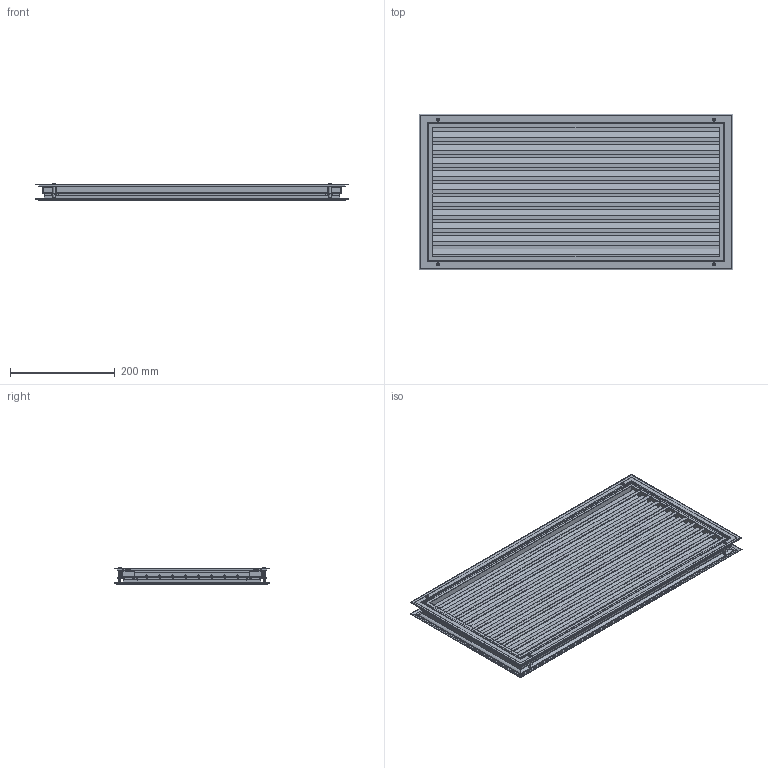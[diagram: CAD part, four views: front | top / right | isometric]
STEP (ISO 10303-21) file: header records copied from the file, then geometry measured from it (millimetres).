
FILE_DESCRIPTION (( 'STEP AP203' ), '1' );
FILE_NAME ('DA-106_B.STEP', '2013-11-07T02:08:34', ( 'SDS' ), ( 'SDS' ), 'SwSTEP 2.0', 'SolidWorks 2002296', '' );
FILE_SCHEMA (( 'CONFIG_CONTROL_DESIGN' ));
Length unit declared in the file: millimetre
Products named in the file (37): DA-106_B14_蹬怮椔; DA-106_B19_蹬怮椔; DA-106_B20_蹬怮椔; DA-106_B21_蹬怮椔; DA-106_B; DA-106_B36_蹬怮椔; DA-106_B22_蹬怮椔; DA-106_B23_蹬怮椔; DA-106_B24_蹬怮椔; DA-106_B25_蹬怮椔; DA-106_B26_蹬怮椔; DA-106_B27_蹬怮椔; DA-106_B28_蹬怮椔; DA-106_B29_蹬怮椔; DA-106_B30_蹬怮椔; DA-106_B31_蹬怮椔; DA-106_B32_蹬怮椔; DA-106_B33_蹬怮椔; DA-106_B34_蹬怮椔; DA-106_B35_蹬怮椔; DA-106_B15_蹬怮椔; DA-106_B16_蹬怮椔; DA-106_B17_蹬怮椔; DA-106_B18_蹬怮椔; DA-106_B1_蹬怮椔; DA-106_B2_蹬怮椔; DA-106_B3_蹬怮椔; DA-106_B4_蹬怮椔; DA-106_B5_蹬怮椔; DA-106_B6_蹬怮椔; DA-106_B7_蹬怮椔; DA-106_B8_蹬怮椔; DA-106_B9_蹬怮椔; DA-106_B10_蹬怮椔; DA-106_B11_蹬怮椔; DA-106_B12_蹬怮椔; DA-106_B13_蹬怮椔
Assembly tree (36 placements, depth 2):
  DA-106_B
    DA-106_B36_蹬怮椔
    DA-106_B1_蹬怮椔
    DA-106_B35_蹬怮椔
    DA-106_B4_蹬怮椔
    DA-106_B9_蹬怮椔
    DA-106_B14_蹬怮椔
    DA-106_B27_蹬怮椔
    DA-106_B28_蹬怮椔
    DA-106_B17_蹬怮椔
    DA-106_B18_蹬怮椔
    DA-106_B2_蹬怮椔
    DA-106_B32_蹬怮椔
    DA-106_B33_蹬怮椔
    DA-106_B6_蹬怮椔
    DA-106_B10_蹬怮椔
    DA-106_B7_蹬怮椔
    DA-106_B8_蹬怮椔
    DA-106_B22_蹬怮椔
    DA-106_B30_蹬怮椔
    DA-106_B31_蹬怮椔
    DA-106_B12_蹬怮椔
    DA-106_B23_蹬怮椔
    DA-106_B25_蹬怮椔
    DA-106_B26_蹬怮椔
    DA-106_B24_蹬怮椔
    DA-106_B19_蹬怮椔
    DA-106_B20_蹬怮椔
    DA-106_B29_蹬怮椔
    DA-106_B3_蹬怮椔
    DA-106_B13_蹬怮椔
    DA-106_B21_蹬怮椔
    DA-106_B15_蹬怮椔
    DA-106_B16_蹬怮椔
    DA-106_B34_蹬怮椔
    DA-106_B5_蹬怮椔
    DA-106_B11_蹬怮椔
Bounding box: 600 x 298.4 x 31.4 mm (x, y, z)
Volume: 540828.9 mm3; surface area: 1070169 mm2
Topology: 36 solids, 36 shells, 1259 faces, 3380 edges, 2174 vertices
Faces by surface type: plane 775, cylinder 348, bspline 80, cone 56
Entity records: 44408 total; most frequent: CARTESIAN_POINT 9511, ORIENTED_EDGE 6680, DIRECTION 6123, EDGE_CURVE 3340, LINE 2207, VECTOR 2207, VERTEX_POINT 2174, AXIS2_PLACEMENT_3D 1958
